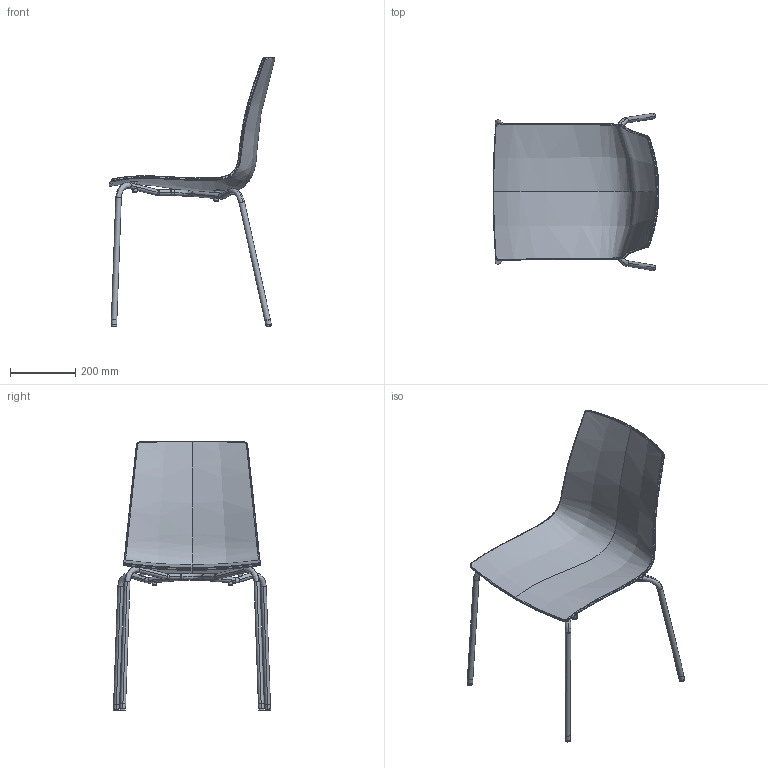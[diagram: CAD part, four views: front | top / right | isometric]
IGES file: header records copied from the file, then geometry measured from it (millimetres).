
Start section: SolidWorks IGES file using analytic representation for surfaces
Global section: file name: C:\Users\ibrahim\Desktop\xtreme pp\x-treme pro.IGS; native system: SolidWorks 2015; preprocessor: SolidWorks 2015; author: ibrahim; date: 180626.111604; units: millimetre
Bounding box: 508.8 x 482.33 x 827.31 mm (x, y, z)
Surface area: 960443.4 mm2 (no closed solid volume)
Topology: 0 solids, 0 shells, 437 faces, 6393 edges, 6393 vertices
Faces by surface type: bspline 262, revolution 175
